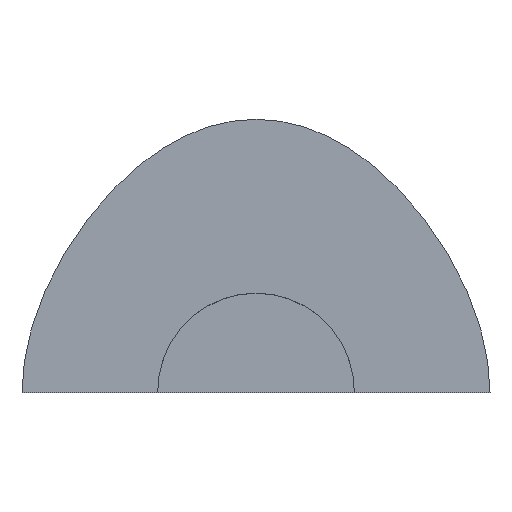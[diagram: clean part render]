
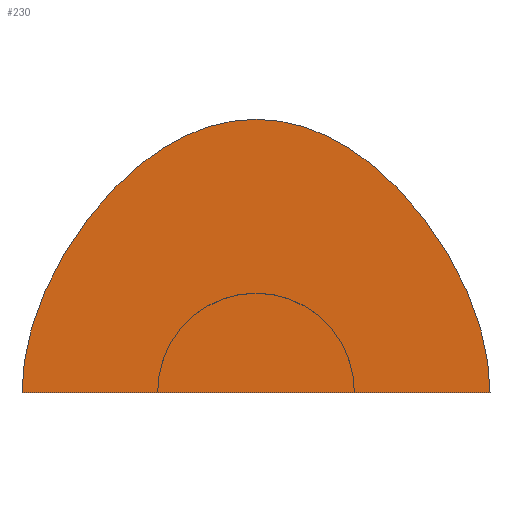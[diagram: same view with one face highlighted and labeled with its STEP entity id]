
A CAD part, top view. The second image highlights one B-rep face of the part: STEP entity #230.
In plain terms, the highlighted planar face has unit normal (0, 0, 1).
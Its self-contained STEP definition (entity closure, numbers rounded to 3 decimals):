
#193=CARTESIAN_POINT('Axis2P3D Location',(0.,56.474,0.)) ;
#198=CARTESIAN_POINT('Line Origine',(0.,0.,0.)) ;
#202=CARTESIAN_POINT('Vertex',(-119.,0.,0.)) ;
#204=CARTESIAN_POINT('Vertex',(119.,0.,0.)) ;
#208=CARTESIAN_POINT('Control Point',(0.,139.,0.)) ;
#209=CARTESIAN_POINT('Control Point',(36.596,139.,0.)) ;
#210=CARTESIAN_POINT('Control Point',(70.921,117.974,0.)) ;
#211=CARTESIAN_POINT('Control Point',(102.974,75.921,0.)) ;
#212=CARTESIAN_POINT('Control Point',(119.,36.596,0.)) ;
#213=CARTESIAN_POINT('Control Point',(119.,0.,0.)) ;
#214=CARTESIAN_POINT('Vertex',(0.,139.,0.)) ;
#218=CARTESIAN_POINT('Control Point',(0.,139.,0.)) ;
#219=CARTESIAN_POINT('Control Point',(-36.596,139.,0.)) ;
#220=CARTESIAN_POINT('Control Point',(-70.921,117.974,0.)) ;
#221=CARTESIAN_POINT('Control Point',(-102.974,75.921,0.)) ;
#222=CARTESIAN_POINT('Control Point',(-119.,36.596,0.)) ;
#223=CARTESIAN_POINT('Control Point',(-119.,0.,0.)) ;
#194=DIRECTION('Axis2P3D Direction',(0.,0.,1.)) ;
#195=DIRECTION('Axis2P3D XDirection',(1.,0.,0.)) ;
#199=DIRECTION('Vector Direction',(1.,0.,0.)) ;
#196=AXIS2_PLACEMENT_3D('Plane Axis2P3D',#193,#194,#195) ;
#226=ORIENTED_EDGE('',*,*,#206,.T.) ;
#227=ORIENTED_EDGE('',*,*,#216,.T.) ;
#228=ORIENTED_EDGE('',*,*,#224,.T.) ;
#200=VECTOR('Line Direction',#199,1.) ;
#230=ADVANCED_FACE('Fill.1',(#229),#197,.T.) ;
#207=B_SPLINE_CURVE_WITH_KNOTS('',5,(#208,#209,#210,#211,#212,#213),.UNSPECIFIED.,.F.,.U.,(6,6),(0.,182.981),.UNSPECIFIED.) ;
#217=B_SPLINE_CURVE_WITH_KNOTS('',5,(#218,#219,#220,#221,#222,#223),.UNSPECIFIED.,.F.,.U.,(6,6),(0.,182.981),.UNSPECIFIED.) ;
#206=EDGE_CURVE('',#203,#205,#201,.T.) ;
#216=EDGE_CURVE('',#205,#215,#207,.F.) ;
#224=EDGE_CURVE('',#215,#203,#217,.T.) ;
#225=EDGE_LOOP('',(#226,#227,#228)) ;
#229=FACE_OUTER_BOUND('',#225,.T.) ;
#201=LINE('Line',#198,#200) ;
#197=PLANE('',#196) ;
#203=VERTEX_POINT('',#202) ;
#205=VERTEX_POINT('',#204) ;
#215=VERTEX_POINT('',#214) ;
